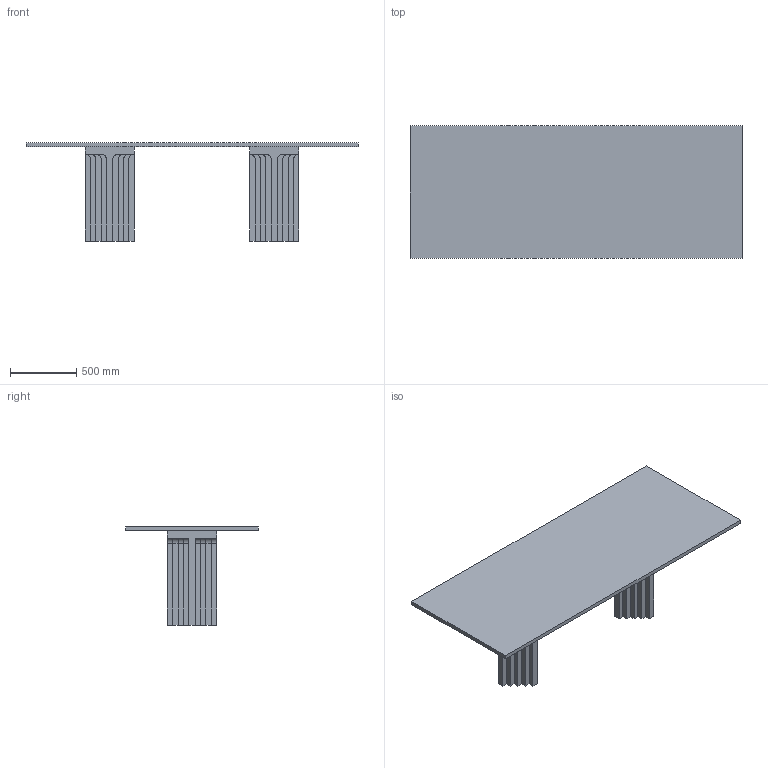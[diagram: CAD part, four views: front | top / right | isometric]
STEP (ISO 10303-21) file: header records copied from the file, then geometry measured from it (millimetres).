
FILE_DESCRIPTION(/* description */ (''),/* implementation_level */ '2;1');
FILE_NAME(/* name */ 'Arc Dining Table 250 cm',/* time_stamp */ '2025-06-24T12:57:44+02:00',/* author */ (''),/* organization */ (''),/* preprocessor_version */ 'ST-DEVELOPER v16.5',/* originating_system */ 'Rhino 7.38',/* authorisation */ '');
FILE_SCHEMA (('CONFIG_CONTROL_DESIGN'));
Length unit declared in the file: millimetre
Products named in the file (1): Document
Bounding box: 2500 x 1000 x 740 mm (x, y, z)
Volume: 185157139.3 mm3; surface area: 7837224.8 mm2
Topology: 3 solids, 3 shells, 146 faces, 421 edges, 282 vertices
Faces by surface type: bspline 146
Entity records: 10784 total; most frequent: CARTESIAN_POINT 5325, B_SPLINE_CURVE_WITH_KNOTS 1165, ORIENTED_EDGE 840, PCURVE 840, DEFINITIONAL_REPRESENTATION 840, SURFACE_CURVE 420, EDGE_CURVE 420, VERTEX_POINT 280
